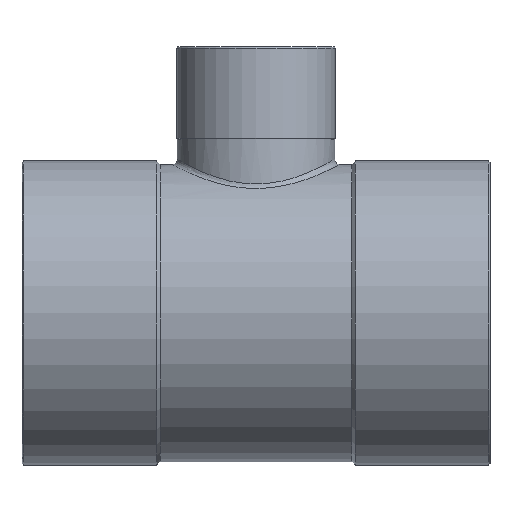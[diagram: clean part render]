
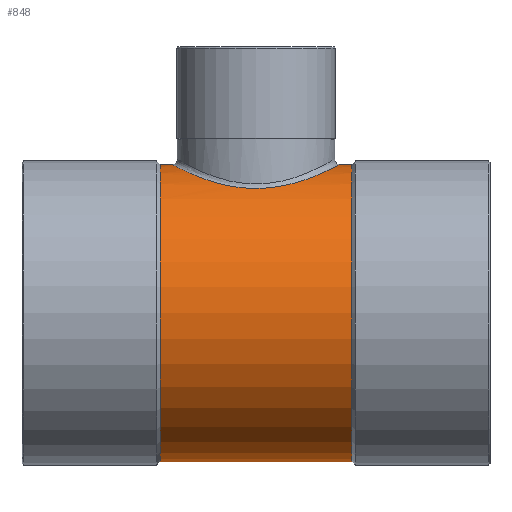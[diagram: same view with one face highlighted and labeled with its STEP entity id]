
A CAD part, top view. The second image highlights one B-rep face of the part: STEP entity #848.
In plain terms, the highlighted cylindrical face has radius 55.25 mm (diameter 110.5 mm), a partial arc.
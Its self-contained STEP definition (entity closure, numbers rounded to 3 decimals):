
#133=CARTESIAN_POINT('',(35.614,55.25,0.0));
#134=VERTEX_POINT('',#133);
#143=CARTESIAN_POINT('',(35.614,-55.25,0.));
#144=VERTEX_POINT('',#143);
#145=CARTESIAN_POINT('',(35.614,0.0,0.0));
#146=DIRECTION('',(1.0,0.0,0.0));
#147=DIRECTION('',(0.0,1.0,0.0));
#148=AXIS2_PLACEMENT_3D('',#145,#146,#147);
#149=CIRCLE('',#148,55.25);
#150=EDGE_CURVE('',#134,#144,#149,.T.);
#177=CARTESIAN_POINT('',(-35.614,55.25,0.0));
#178=VERTEX_POINT('',#177);
#194=CARTESIAN_POINT('',(-35.614,-55.25,0.));
#195=VERTEX_POINT('',#194);
#202=CARTESIAN_POINT('',(-35.614,0.0,0.0));
#203=DIRECTION('',(1.0,0.0,0.0));
#204=DIRECTION('',(0.0,1.0,0.0));
#205=AXIS2_PLACEMENT_3D('',#202,#203,#204);
#206=CIRCLE('',#205,55.25);
#207=EDGE_CURVE('',#178,#195,#206,.T.);
#800=CARTESIAN_POINT('',(17.807,0.0,0.0));
#801=DIRECTION('',(1.0,0.0,0.0));
#802=DIRECTION('',(0.0,1.0,0.0));
#803=AXIS2_PLACEMENT_3D('',#800,#801,#802);
#804=CYLINDRICAL_SURFACE('',#803,55.25);
#805=CARTESIAN_POINT('',(-31.285,55.25,0.));
#806=VERTEX_POINT('',#805);
#807=CARTESIAN_POINT('',(-35.614,55.25,0.0));
#808=DIRECTION('',(1.0,0.0,0.0));
#809=VECTOR('',#808,4.329);
#810=LINE('',#807,#809);
#811=EDGE_CURVE('',#178,#806,#810,.T.);
#812=ORIENTED_EDGE('',*,*,#811,.F.);
#813=ORIENTED_EDGE('',*,*,#207,.T.);
#814=CARTESIAN_POINT('',(35.614,-55.25,0.));
#815=DIRECTION('',(-1.0,0.0,0.0));
#816=VECTOR('',#815,71.229);
#817=LINE('',#814,#816);
#818=EDGE_CURVE('',#144,#195,#817,.T.);
#819=ORIENTED_EDGE('',*,*,#818,.F.);
#820=ORIENTED_EDGE('',*,*,#150,.F.);
#821=CARTESIAN_POINT('',(31.285,55.25,0.));
#822=VERTEX_POINT('',#821);
#823=CARTESIAN_POINT('',(31.285,55.25,0.));
#824=DIRECTION('',(1.0,0.0,0.0));
#825=VECTOR('',#824,4.329);
#826=LINE('',#823,#825);
#827=EDGE_CURVE('',#822,#134,#826,.T.);
#828=ORIENTED_EDGE('',*,*,#827,.F.);
#829=CARTESIAN_POINT('',(-31.285,55.25,0.));
#830=CARTESIAN_POINT('',(-31.285,55.25,1.592));
#831=CARTESIAN_POINT('',(-31.153,55.18,3.198));
#832=CARTESIAN_POINT('',(-29.781,54.463,11.473));
#833=CARTESIAN_POINT('',(-26.289,52.587,17.632));
#834=CARTESIAN_POINT('',(-17.561,49.166,25.472));
#835=CARTESIAN_POINT('',(-12.948,47.681,27.952));
#836=CARTESIAN_POINT('',(-2.735,46.09,30.504));
#837=CARTESIAN_POINT('',(2.793,46.094,30.5));
#838=CARTESIAN_POINT('',(15.874,48.146,27.206));
#839=CARTESIAN_POINT('',(22.646,51.052,22.249));
#840=CARTESIAN_POINT('',(29.676,54.363,10.958));
#841=CARTESIAN_POINT('',(31.285,55.25,5.485));
#842=CARTESIAN_POINT('',(31.285,55.25,0.));
#843=B_SPLINE_CURVE_WITH_KNOTS('',3,(#829,#830,#831,#832,#833,#834,#835,#836,#837,#838,#839,#840,#841,#842),.UNSPECIFIED.,.F.,.U.,(4,2,2,2,2,2,4),(4.517,4.965,6.874,8.315,9.755,12.006,13.548),.UNSPECIFIED.);
#844=EDGE_CURVE('',#806,#822,#843,.T.);
#845=ORIENTED_EDGE('',*,*,#844,.F.);
#846=EDGE_LOOP('',(#812,#813,#819,#820,#828,#845));
#847=FACE_OUTER_BOUND('',#846,.T.);
#848=ADVANCED_FACE('',(#847),#804,.T.);
